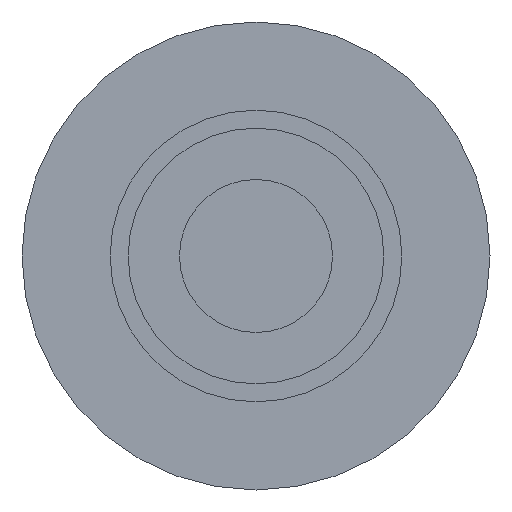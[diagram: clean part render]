
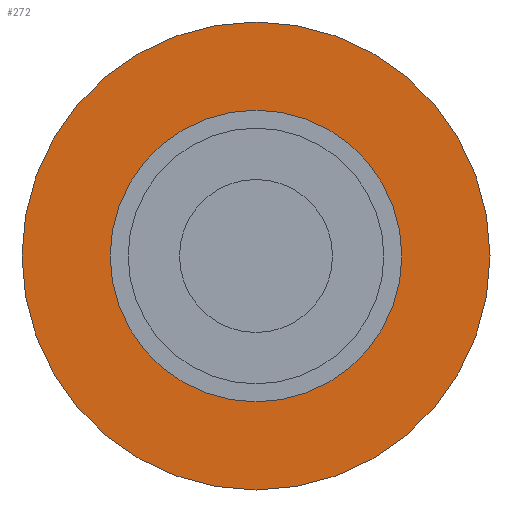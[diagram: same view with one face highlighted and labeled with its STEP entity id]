
A CAD part, left-side view. The second image highlights one B-rep face of the part: STEP entity #272.
In plain terms, the highlighted planar face has unit normal (-1, 0, 0).
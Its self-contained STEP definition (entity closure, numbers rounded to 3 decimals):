
#116 = CYLINDRICAL_SURFACE('',#117,16.2);
#117 = AXIS2_PLACEMENT_3D('',#118,#119,#120);
#118 = CARTESIAN_POINT('',(0.,0.,0.));
#119 = DIRECTION('',(1.,0.,0.));
#120 = DIRECTION('',(-0.,1.,0.));
#188 = VERTEX_POINT('',#189);
#189 = CARTESIAN_POINT('',(15.5,16.2,0.));
#210 = EDGE_CURVE('',#188,#188,#211,.T.);
#211 = SURFACE_CURVE('',#212,(#217,#224),.PCURVE_S1.);
#212 = CIRCLE('',#213,16.2);
#213 = AXIS2_PLACEMENT_3D('',#214,#215,#216);
#214 = CARTESIAN_POINT('',(15.5,0.,0.));
#215 = DIRECTION('',(1.,0.,0.));
#216 = DIRECTION('',(-0.,1.,0.));
#217 = PCURVE('',#116,#218);
#218 = DEFINITIONAL_REPRESENTATION('',(#219),#223);
#219 = LINE('',#220,#221);
#220 = CARTESIAN_POINT('',(0.,15.5));
#221 = VECTOR('',#222,1.);
#222 = DIRECTION('',(1.,0.));
#223 = ( GEOMETRIC_REPRESENTATION_CONTEXT(2) 
PARAMETRIC_REPRESENTATION_CONTEXT() REPRESENTATION_CONTEXT('2D SPACE',''
  ) );
#224 = PCURVE('',#225,#230);
#225 = PLANE('',#226);
#226 = AXIS2_PLACEMENT_3D('',#227,#228,#229);
#227 = CARTESIAN_POINT('',(15.5,0.,0.));
#228 = DIRECTION('',(1.,0.,0.));
#229 = DIRECTION('',(-0.,1.,0.));
#230 = DEFINITIONAL_REPRESENTATION('',(#231),#235);
#231 = CIRCLE('',#232,16.2);
#232 = AXIS2_PLACEMENT_2D('',#233,#234);
#233 = CARTESIAN_POINT('',(0.,0.));
#234 = DIRECTION('',(1.,-0.));
#235 = ( GEOMETRIC_REPRESENTATION_CONTEXT(2) 
PARAMETRIC_REPRESENTATION_CONTEXT() REPRESENTATION_CONTEXT('2D SPACE',''
  ) );
#272 = ADVANCED_FACE('',(#273,#276),#225,.F.);
#273 = FACE_BOUND('',#274,.T.);
#274 = EDGE_LOOP('',(#275));
#275 = ORIENTED_EDGE('',*,*,#210,.T.);
#276 = FACE_BOUND('',#277,.T.);
#277 = EDGE_LOOP('',(#278));
#278 = ORIENTED_EDGE('',*,*,#279,.F.);
#279 = EDGE_CURVE('',#280,#280,#282,.T.);
#280 = VERTEX_POINT('',#281);
#281 = CARTESIAN_POINT('',(15.5,26.,0.));
#282 = SURFACE_CURVE('',#283,(#288,#295),.PCURVE_S1.);
#283 = CIRCLE('',#284,26.);
#284 = AXIS2_PLACEMENT_3D('',#285,#286,#287);
#285 = CARTESIAN_POINT('',(15.5,0.,0.));
#286 = DIRECTION('',(1.,0.,0.));
#287 = DIRECTION('',(-0.,1.,0.));
#288 = PCURVE('',#225,#289);
#289 = DEFINITIONAL_REPRESENTATION('',(#290),#294);
#290 = CIRCLE('',#291,26.);
#291 = AXIS2_PLACEMENT_2D('',#292,#293);
#292 = CARTESIAN_POINT('',(0.,0.));
#293 = DIRECTION('',(1.,-0.));
#294 = ( GEOMETRIC_REPRESENTATION_CONTEXT(2) 
PARAMETRIC_REPRESENTATION_CONTEXT() REPRESENTATION_CONTEXT('2D SPACE',''
  ) );
#295 = PCURVE('',#296,#301);
#296 = CYLINDRICAL_SURFACE('',#297,26.);
#297 = AXIS2_PLACEMENT_3D('',#298,#299,#300);
#298 = CARTESIAN_POINT('',(15.5,0.,0.));
#299 = DIRECTION('',(1.,0.,0.));
#300 = DIRECTION('',(-0.,1.,0.));
#301 = DEFINITIONAL_REPRESENTATION('',(#302),#306);
#302 = LINE('',#303,#304);
#303 = CARTESIAN_POINT('',(0.,0.));
#304 = VECTOR('',#305,1.);
#305 = DIRECTION('',(1.,0.));
#306 = ( GEOMETRIC_REPRESENTATION_CONTEXT(2) 
PARAMETRIC_REPRESENTATION_CONTEXT() REPRESENTATION_CONTEXT('2D SPACE',''
  ) );
